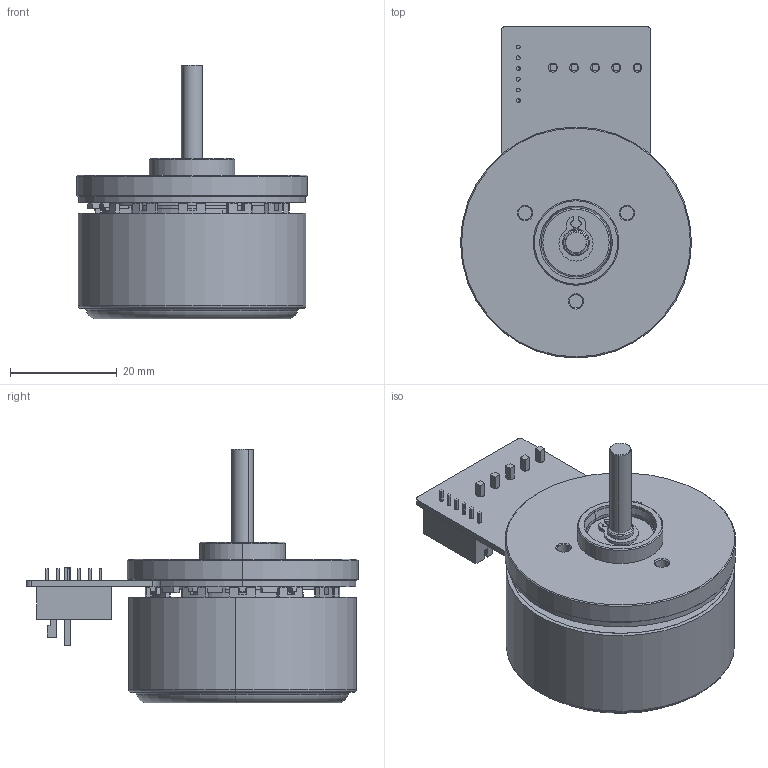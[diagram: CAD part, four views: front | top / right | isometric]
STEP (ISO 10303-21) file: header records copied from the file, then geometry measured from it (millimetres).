
FILE_DESCRIPTION (( 'STEP AP203' ), '1' );
FILE_NAME ('FL45BLW27Íâ×ª×Óµç»ú ×Ü×°.STEP', '2015-05-28T09:25:29', ( '' ), ( '' ), 'SwSTEP 2.0', 'SolidWorks 2014', '' );
FILE_SCHEMA (( 'CONFIG_CONTROL_DESIGN' ));
Length unit declared in the file: millimetre
Products named in the file (15): circlips for shaft--type a small gb_GB_CONNECTING_PIECE_RING_RRA 5; 棠詩; 橈埽え; 蛌粣; FL45BLW27俋蛌赽萇儂 軞蚾; 蛌赽; 橈埽嘎殤A; PL451-504 橈埽嘎殤B; ヶ傷裔; B6B-PH-K-S; PCB; B5P-VH; 隅赽沺郋; 695ZZ; 蛌赽褲
Assembly tree (15 placements, depth 3):
  FL45BLW27俋蛌赽萇儂 軞蚾
    ヶ傷裔
    PCB
    隅赽沺郋
    蛌赽
      蛌赽褲
      棠詩
      蛌粣
    橈埽嘎殤A
    PL451-504 橈埽嘎殤B
    B6B-PH-K-S
    B5P-VH
    695ZZ  x2
    circlips for shaft--type a small gb_GB_CONNECTING_PIECE_RING_RRA 5
    橈埽え
Bounding box: 43.2 x 62.1 x 47.5 mm (x, y, z)
Volume: 27767.8 mm3; surface area: 42005.7 mm2
Topology: 14 solids, 14 shells, 1686 faces, 4556 edges, 2948 vertices
Faces by surface type: plane 739, cylinder 703, cone 138, torus 101, bspline 5
Entity records: 55609 total; most frequent: CARTESIAN_POINT 10361, DIRECTION 9547, ORIENTED_EDGE 9056, EDGE_CURVE 4528, AXIS2_PLACEMENT_3D 3459, VERTEX_POINT 2932, VECTOR 2629, LINE 2629
